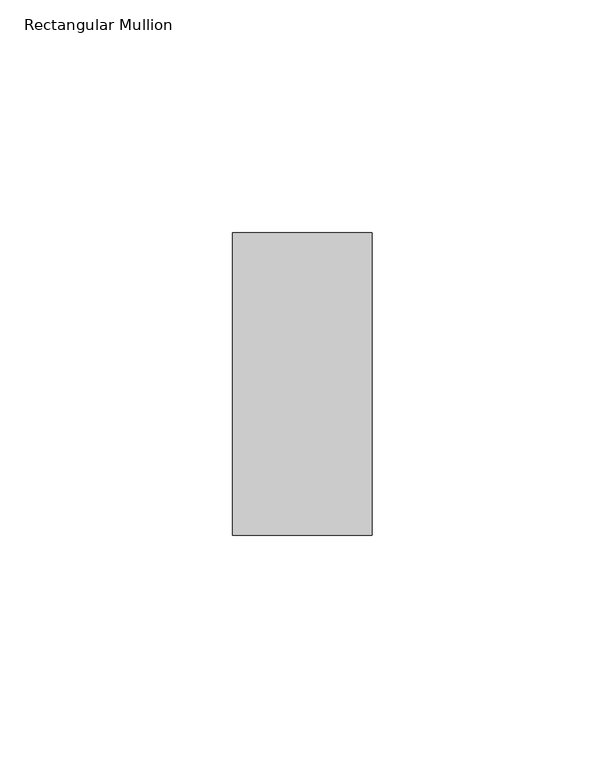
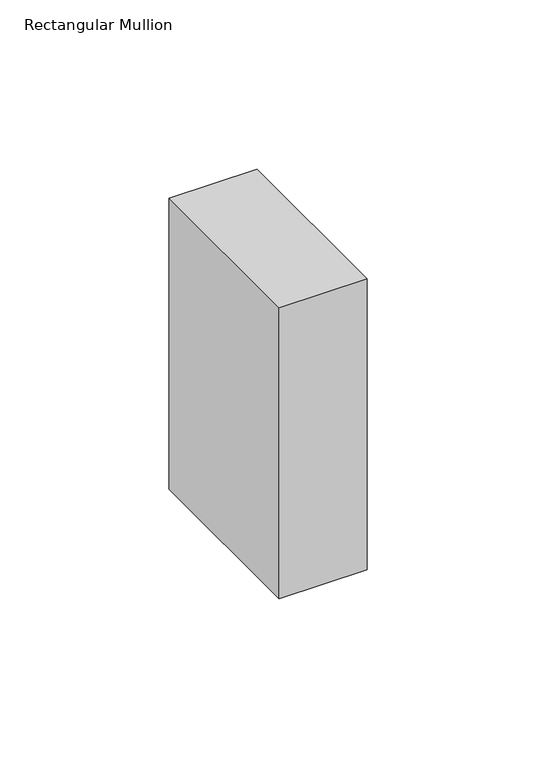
"""IFC4 building model written with IfcOpenShell, lengths in millimetres: member geometry, Rectangular Mullion : Batten_Timber_Modinex_Austratus_Grid_Fascia_30x65_AlaskanYellowCedar."""

from ifc_helpers import new_model, si_unit, frame, origin, place, context, project, spatial, polyline, outline, extrude, source, transform, mapped, element, save


def rectangular_mullion_f2fcf417(model_context):
    return source(origin(), model_context, "Body", "SweptSolid", [
        extrude(outline(polyline([(-30.0, 65.0), (0.0, 65.0), (0.0, 0.0), (-30.0, 0.0), (-30.0, 65.0)])), frame((0.0, 0.0, -104.9999997), z_axis=(0.0, 0.0, 1.0), x_axis=(1.0, 0.0, 0.0)), (0.0, 0.0, 1.0), 104.9999997),
    ])


if __name__ == "__main__":
    model = new_model("IFC4")
    model_context = context("Model", 3, world=origin())
    ifc_project = project(units=[si_unit("LENGTHUNIT", "METRE", prefix="MILLI")], contexts=[model_context])
    site = spatial("IfcSite", under=ifc_project)
    building = spatial("IfcBuilding", under=site)
    placement = place(None, origin())
    rectangular_mullion_shape = rectangular_mullion_f2fcf417(model_context)
    element("IfcMember", 1, ObjectType="Rectangular Mullion : Batten_Timber_Modinex_Austratus_Grid_Fascia_30x65_AlaskanYellowCedar", at=placement, inside=building, context=model_context, shape_type="MappedRepresentation", body=[
        mapped(rectangular_mullion_shape, transform((0.0, 0.0, 0.0), x_axis=(1.0, 0.0, 0.0), y_axis=(0.0, 1.0, 0.0), z_axis=(0.0, 0.0, 1.0))),
    ])
    save(model, "model.ifc")
